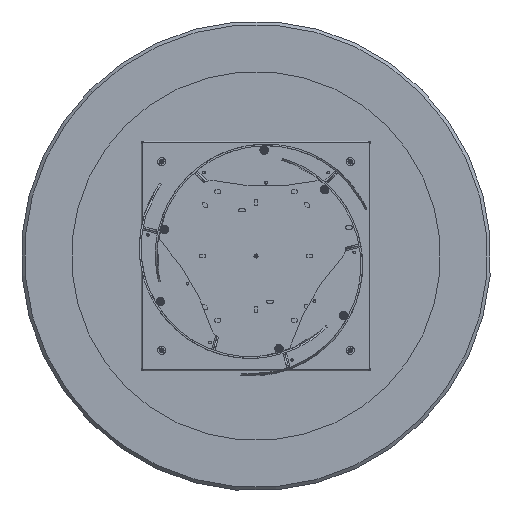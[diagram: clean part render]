
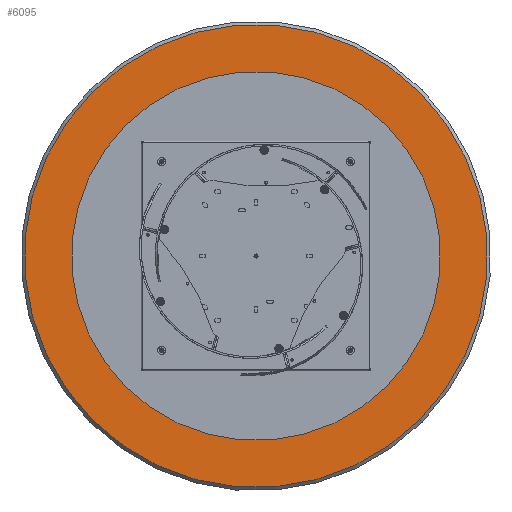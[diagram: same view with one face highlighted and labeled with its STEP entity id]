
A CAD part, front view. The second image highlights one B-rep face of the part: STEP entity #6095.
In plain terms, the highlighted planar face has unit normal (0, -1, 0).
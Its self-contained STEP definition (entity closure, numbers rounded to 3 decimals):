
#69 = DIRECTION ( 'NONE',  ( 0., 0., -1. ) ) ;
#392 = DIRECTION ( 'NONE',  ( 0., -1., 0. ) ) ;
#406 = PLANE ( 'NONE',  #13394 ) ;
#570 = EDGE_CURVE ( 'NONE', #12710, #12375, #1500, .T. ) ;
#895 = FACE_BOUND ( 'NONE', #3470, .T. ) ;
#1500 = CIRCLE ( 'NONE', #17940, 690. ) ;
#2903 = VERTEX_POINT ( 'NONE', #8268 ) ;
#3470 = EDGE_LOOP ( 'NONE', ( #5307, #6823 ) ) ;
#5161 = CIRCLE ( 'NONE', #17451, 690. ) ;
#5307 = ORIENTED_EDGE ( 'NONE', *, *, #16487, .F. ) ;
#5453 = CIRCLE ( 'NONE', #12617, 3.3 ) ;
#6095 = ADVANCED_FACE ( 'NONE', ( #895, #20505 ), #406, .T. ) ;
#6823 = ORIENTED_EDGE ( 'NONE', *, *, #12124, .F. ) ;
#6854 = DIRECTION ( 'NONE',  ( 0., 0., -1. ) ) ;
#8268 = CARTESIAN_POINT ( 'NONE',  ( 0., 0., 3.3 ) ) ;
#8624 = CIRCLE ( 'NONE', #12032, 3.3 ) ;
#9074 = DIRECTION ( 'NONE',  ( 0., -1., 0. ) ) ;
#10102 = CARTESIAN_POINT ( 'NONE',  ( 0., 0., 0. ) ) ;
#10924 = ORIENTED_EDGE ( 'NONE', *, *, #570, .T. ) ;
#11401 = CARTESIAN_POINT ( 'NONE',  ( 0., 0., 690. ) ) ;
#11697 = ORIENTED_EDGE ( 'NONE', *, *, #14852, .T. ) ;
#12032 = AXIS2_PLACEMENT_3D ( 'NONE', #10102, #18441, #16950 ) ;
#12071 = CARTESIAN_POINT ( 'NONE',  ( 0., 0., -690. ) ) ;
#12106 = DIRECTION ( 'NONE',  ( 0., -1., 0. ) ) ;
#12124 = EDGE_CURVE ( 'NONE', #2903, #14450, #5453, .T. ) ;
#12266 = CARTESIAN_POINT ( 'NONE',  ( 0., 0., 0. ) ) ;
#12375 = VERTEX_POINT ( 'NONE', #12071 ) ;
#12617 = AXIS2_PLACEMENT_3D ( 'NONE', #13465, #392, #69 ) ;
#12710 = VERTEX_POINT ( 'NONE', #11401 ) ;
#12871 = CARTESIAN_POINT ( 'NONE',  ( 0., 0., -3.3 ) ) ;
#13394 = AXIS2_PLACEMENT_3D ( 'NONE', #15687, #18909, #6854 ) ;
#13465 = CARTESIAN_POINT ( 'NONE',  ( 0., 0., 0. ) ) ;
#13722 = CARTESIAN_POINT ( 'NONE',  ( 0., 0., 0. ) ) ;
#14450 = VERTEX_POINT ( 'NONE', #12871 ) ;
#14852 = EDGE_CURVE ( 'NONE', #12375, #12710, #5161, .T. ) ;
#15664 = EDGE_LOOP ( 'NONE', ( #10924, #11697 ) ) ;
#15687 = CARTESIAN_POINT ( 'NONE',  ( 0., 0., 0. ) ) ;
#16487 = EDGE_CURVE ( 'NONE', #14450, #2903, #8624, .T. ) ;
#16940 = DIRECTION ( 'NONE',  ( 0., 0., -1. ) ) ;
#16950 = DIRECTION ( 'NONE',  ( 0., 0., -1. ) ) ;
#17451 = AXIS2_PLACEMENT_3D ( 'NONE', #12266, #9074, #19014 ) ;
#17940 = AXIS2_PLACEMENT_3D ( 'NONE', #13722, #12106, #16940 ) ;
#18441 = DIRECTION ( 'NONE',  ( 0., -1., 0. ) ) ;
#18909 = DIRECTION ( 'NONE',  ( 0., -1., 0. ) ) ;
#19014 = DIRECTION ( 'NONE',  ( 0., 0., -1. ) ) ;
#20505 = FACE_OUTER_BOUND ( 'NONE', #15664, .T. ) ;
